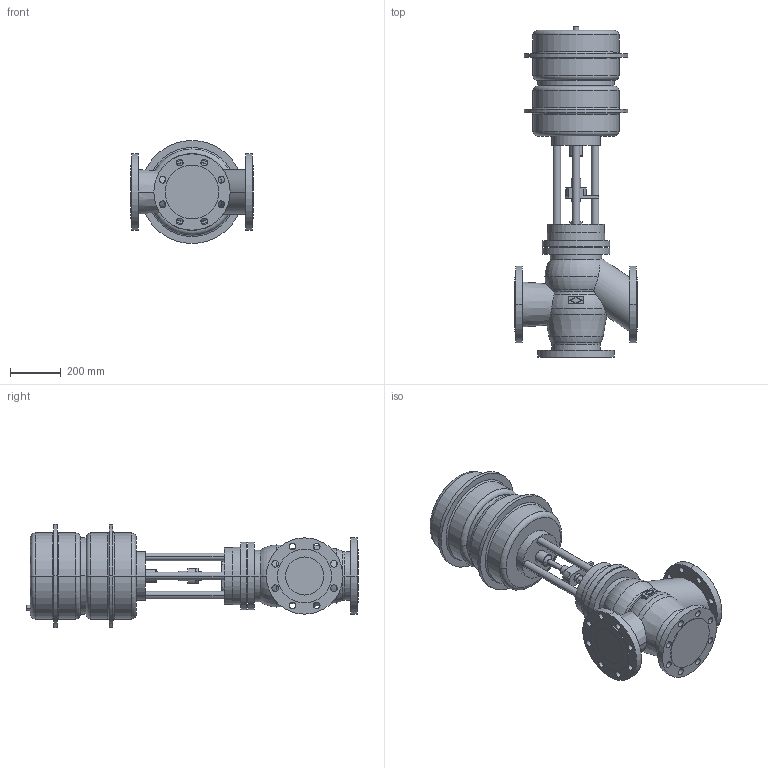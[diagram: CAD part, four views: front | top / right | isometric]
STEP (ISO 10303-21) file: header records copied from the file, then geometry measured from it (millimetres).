
FILE_DESCRIPTION(('OneSpaceDesigner STEP Export'),'2;1');
FILE_NAME('c000002374.stp','2006-12-14T11:55:50',(''),(''),'OneSpace Designer STEP processor for AP214 (Solid Model)','OneSpace Designer 14.00B 27-May-2006 (C) CoCreate Software GmbH','');
FILE_SCHEMA(('AUTOMOTIVE_DESIGN { 1 0 10303 214 1 1 1 1 }'));
Length unit declared in the file: millimetre
Products named in the file (2): 1; 2
Bounding box: 480 x 1304.5 x 405 mm (x, y, z)
Volume: 71549905.1 mm3; surface area: 1989678.1 mm2
Topology: 2 solids, 2 shells, 241 faces, 582 edges, 380 vertices
Faces by surface type: cylinder 126, plane 75, torus 34, cone 6
Entity records: 6384 total; most frequent: CARTESIAN_POINT 1251, ORIENTED_EDGE 1164, DIRECTION 912, EDGE_CURVE 582, VERTEX_POINT 380, AXIS2_PLACEMENT_3D 345, EDGE_LOOP 324, FACE_OUTER_BOUND 241
